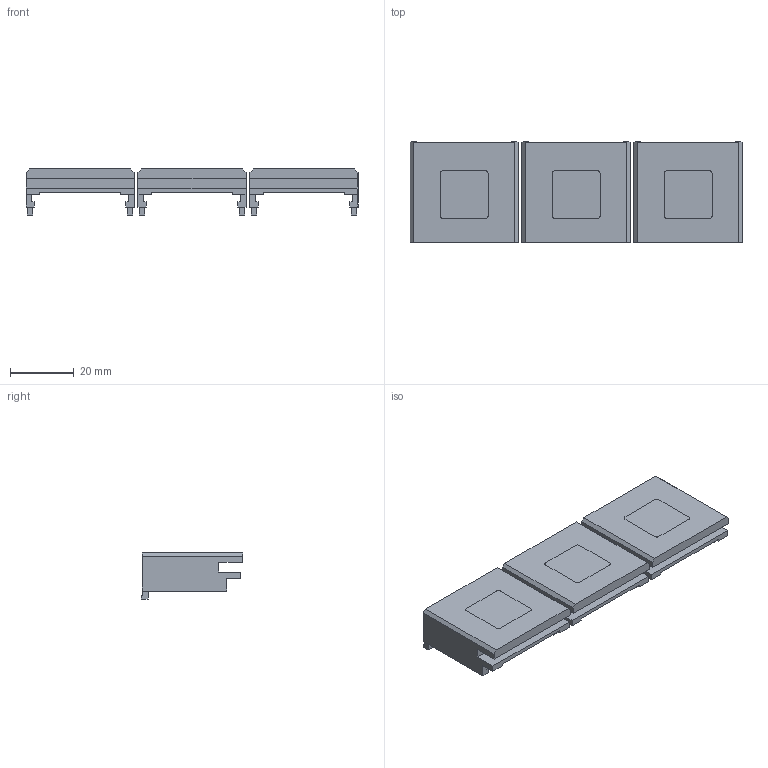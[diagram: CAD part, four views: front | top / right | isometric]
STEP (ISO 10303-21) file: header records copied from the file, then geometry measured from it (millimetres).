
FILE_DESCRIPTION(/* description */ (''),/* implementation_level */ '2;1');
FILE_NAME(/* name */ 'LA-2237-0929#-A.stp',/* time_stamp */ '2012-09-04T14:08:34+01:00',/* author */ (''),/* organization */ (''),/* preprocessor_version */ 'ST-DEVELOPER v11',/* originating_system */ 'SIEMENS PLM Software NX 7.5',/* authorisation */ '');
FILE_SCHEMA (('AUTOMOTIVE_DESIGN { 1 0 10303 214 1 1 1 1 }'));
Length unit declared in the file: millimetre
Products named in the file (1): rt133622tjok
Bounding box: 104.5 x 31.8 x 14.5 mm (x, y, z)
Volume: 15710.1 mm3; surface area: 13012.6 mm2
Topology: 3 solids, 3 shells, 129 faces, 384 edges, 264 vertices
Faces by surface type: plane 129
Entity records: 4338 total; most frequent: CARTESIAN_POINT 778, ORIENTED_EDGE 768, DIRECTION 656, EDGE_CURVE 384, LINE 372, VECTOR 372, VERTEX_POINT 264, AXIS2_PLACEMENT_3D 142
